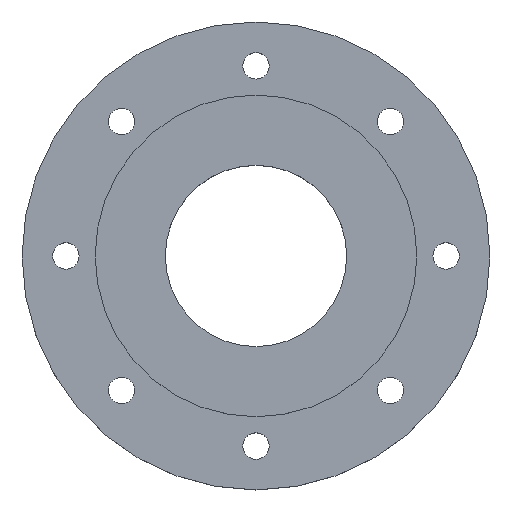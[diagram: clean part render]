
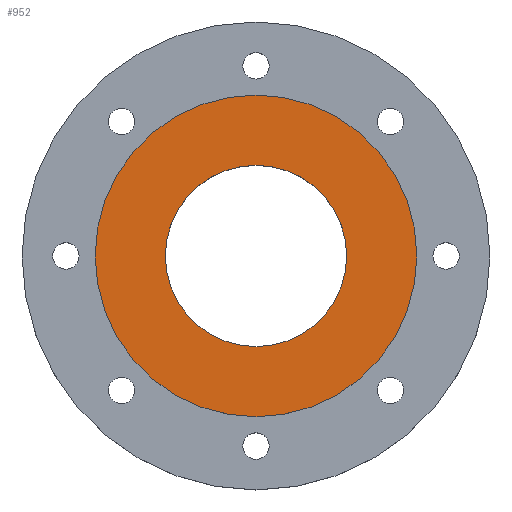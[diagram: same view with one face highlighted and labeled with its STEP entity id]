
A CAD part, top view. The second image highlights one B-rep face of the part: STEP entity #952.
In plain terms, the highlighted planar face has unit normal (0, 0, 1).
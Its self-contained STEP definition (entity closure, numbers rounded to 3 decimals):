
#284 = CYLINDRICAL_SURFACE('',#285,55.);
#285 = AXIS2_PLACEMENT_3D('',#286,#287,#288);
#286 = CARTESIAN_POINT('',(0.,0.,18.));
#287 = DIRECTION('',(0.,0.,1.));
#288 = DIRECTION('',(1.,0.,-0.));
#542 = CYLINDRICAL_SURFACE('',#543,31.);
#543 = AXIS2_PLACEMENT_3D('',#544,#545,#546);
#544 = CARTESIAN_POINT('',(0.,0.,-30.));
#545 = DIRECTION('',(0.,0.,1.));
#546 = DIRECTION('',(1.,0.,-0.));
#770 = EDGE_CURVE('',#771,#771,#773,.T.);
#771 = VERTEX_POINT('',#772);
#772 = CARTESIAN_POINT('',(55.,0.,22.));
#773 = SURFACE_CURVE('',#774,(#779,#786),.PCURVE_S1.);
#774 = CIRCLE('',#775,55.);
#775 = AXIS2_PLACEMENT_3D('',#776,#777,#778);
#776 = CARTESIAN_POINT('',(0.,0.,22.));
#777 = DIRECTION('',(0.,0.,1.));
#778 = DIRECTION('',(1.,0.,-0.));
#779 = PCURVE('',#284,#780);
#780 = DEFINITIONAL_REPRESENTATION('',(#781),#785);
#781 = LINE('',#782,#783);
#782 = CARTESIAN_POINT('',(0.,4.));
#783 = VECTOR('',#784,1.);
#784 = DIRECTION('',(1.,0.));
#785 = ( GEOMETRIC_REPRESENTATION_CONTEXT(2) 
PARAMETRIC_REPRESENTATION_CONTEXT() REPRESENTATION_CONTEXT('2D SPACE',''
  ) );
#786 = PCURVE('',#787,#792);
#787 = PLANE('',#788);
#788 = AXIS2_PLACEMENT_3D('',#789,#790,#791);
#789 = CARTESIAN_POINT('',(0.,0.,22.));
#790 = DIRECTION('',(0.,0.,1.));
#791 = DIRECTION('',(1.,0.,-0.));
#792 = DEFINITIONAL_REPRESENTATION('',(#793),#797);
#793 = CIRCLE('',#794,55.);
#794 = AXIS2_PLACEMENT_2D('',#795,#796);
#795 = CARTESIAN_POINT('',(0.,0.));
#796 = DIRECTION('',(1.,0.));
#797 = ( GEOMETRIC_REPRESENTATION_CONTEXT(2) 
PARAMETRIC_REPRESENTATION_CONTEXT() REPRESENTATION_CONTEXT('2D SPACE',''
  ) );
#906 = EDGE_CURVE('',#907,#907,#909,.T.);
#907 = VERTEX_POINT('',#908);
#908 = CARTESIAN_POINT('',(31.,0.,22.));
#909 = SURFACE_CURVE('',#910,(#915,#922),.PCURVE_S1.);
#910 = CIRCLE('',#911,31.);
#911 = AXIS2_PLACEMENT_3D('',#912,#913,#914);
#912 = CARTESIAN_POINT('',(0.,0.,22.));
#913 = DIRECTION('',(0.,0.,1.));
#914 = DIRECTION('',(1.,0.,-0.));
#915 = PCURVE('',#542,#916);
#916 = DEFINITIONAL_REPRESENTATION('',(#917),#921);
#917 = LINE('',#918,#919);
#918 = CARTESIAN_POINT('',(0.,52.));
#919 = VECTOR('',#920,1.);
#920 = DIRECTION('',(1.,0.));
#921 = ( GEOMETRIC_REPRESENTATION_CONTEXT(2) 
PARAMETRIC_REPRESENTATION_CONTEXT() REPRESENTATION_CONTEXT('2D SPACE',''
  ) );
#922 = PCURVE('',#787,#923);
#923 = DEFINITIONAL_REPRESENTATION('',(#924),#928);
#924 = CIRCLE('',#925,31.);
#925 = AXIS2_PLACEMENT_2D('',#926,#927);
#926 = CARTESIAN_POINT('',(0.,0.));
#927 = DIRECTION('',(1.,0.));
#928 = ( GEOMETRIC_REPRESENTATION_CONTEXT(2) 
PARAMETRIC_REPRESENTATION_CONTEXT() REPRESENTATION_CONTEXT('2D SPACE',''
  ) );
#952 = ADVANCED_FACE('',(#953,#956),#787,.T.);
#953 = FACE_BOUND('',#954,.T.);
#954 = EDGE_LOOP('',(#955));
#955 = ORIENTED_EDGE('',*,*,#770,.T.);
#956 = FACE_BOUND('',#957,.T.);
#957 = EDGE_LOOP('',(#958));
#958 = ORIENTED_EDGE('',*,*,#906,.F.);
